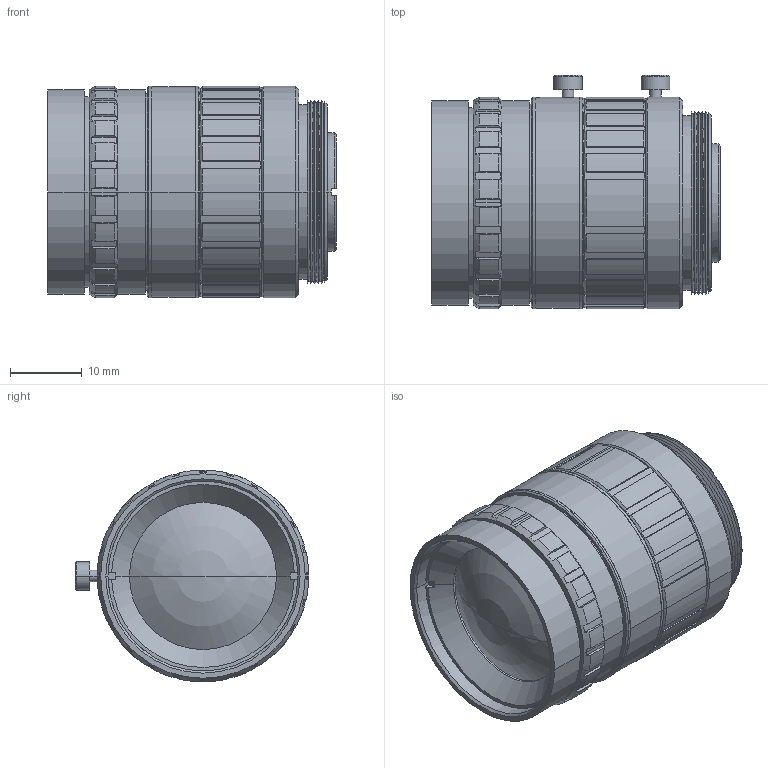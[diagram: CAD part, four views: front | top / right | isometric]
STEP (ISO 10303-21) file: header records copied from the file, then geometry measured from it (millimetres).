
FILE_DESCRIPTION(('CoCreate Modeling STEP Export'),'2;1');
FILE_NAME('HF9HA-1B_3D_Modeling.stp','2016-05-11T18:21:34',(''),(''),'CoCreate Modeling STEP processor for AP214 (Solid Model)','CoCreate Modeling 17.0 01-Apr-2010 (C) Parametric Technology GmbH','');
FILE_SCHEMA(('AUTOMOTIVE_DESIGN { 1 0 10303 214 1 1 1 1 }'));
Length unit declared in the file: millimetre
Products named in the file (2): HF09HA-1B
Assembly tree (1 placements, depth 2):
  HF09HA-1B
    HF09HA-1B
Bounding box: 40.2 x 32.55 x 29.5 mm (x, y, z)
Volume: 23426.1 mm3; surface area: 6624.7 mm2
Topology: 1 solids, 1 shells, 328 faces, 872 edges, 560 vertices
Faces by surface type: cylinder 135, plane 131, cone 60, sphere 2
Entity records: 11946 total; most frequent: CARTESIAN_POINT 4262, ORIENTED_EDGE 1740, DIRECTION 1217, EDGE_CURVE 870, VERTEX_POINT 560, AXIS2_PLACEMENT_3D 448, EDGE_LOOP 344, FACE_OUTER_BOUND 328
